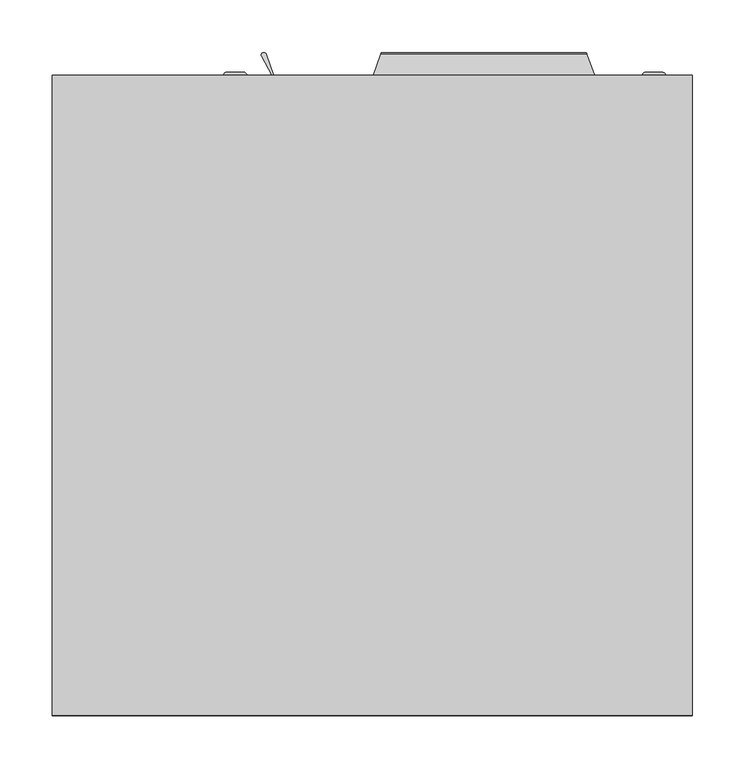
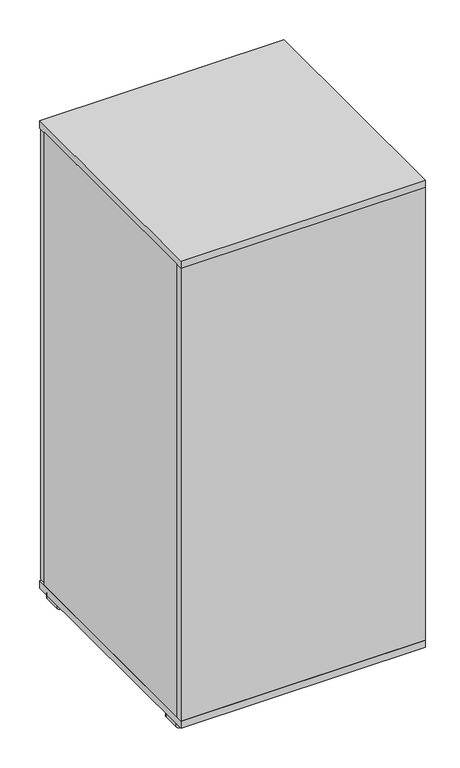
"""IFC4 building model written with IfcOpenShell, lengths in millimetres: furniture geometry, Haworth_BeHold_PersonalStorageTower_SideBookcase_24Wide : F/F - 24d 49h - Proud Back."""

from ifc_helpers import new_model, si_unit, point, frame, frame_2d, origin, origin_with_axes, place, context, project, spatial, polyline, circle_curve, ellipse_curve, trimmed, segment, composite_curve, outline, extrude, source, transform, mapped, element, save
from ifc_brep_helpers import plane_surface, cylinder_surface, revolved_surface, advanced_brep


def furniture_169a2497(model_context):
    return source(origin(), model_context, "Body", "SolidModel", [
        advanced_brep(
        [(-366.6155381, 673.1, 1072.35625), (-366.6155381, 673.1, 861.21875), (-365.2185303, 673.1, 861.21875), (-365.2185303, 673.1, 1072.35625), (-372.1358002, 693.3137158, 868.5759409), (-372.1358002, 693.3137158, 1064.9990591), (-376.758471, 691.2513306, 867.8252941), (-376.758471, 691.2513306, 1065.7497059)],
        [
            (0, 1),
            (1, 2),
            (2, 3),
            (3, 0),
            (2, 4),
            (4, 5),
            (5, 3),
            (4, 6, ellipse_curve(frame((-374.5401205, 692.4909412, 868.2764754), z_axis=(0.0, -0.3420201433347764, 0.9396926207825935), x_axis=(0.0, 0.9396926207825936, 0.34202014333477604)), 2.704292, 2.5412032)),
            (6, 7),
            (7, 5, ellipse_curve(frame((-374.5401205, 692.4909412, 1065.2985246), z_axis=(0.0, -0.34202014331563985, -0.9396926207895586), x_axis=(0.0, -0.9396926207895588, 0.3420201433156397)), 2.704292, 2.5412032)),
            (0, 7),
            (6, 1),
        ],
        [
            plane_surface(frame((-366.6155381, 673.1, 1072.35625), z_axis=(0.0, -1.0, 0.0), x_axis=(0.0, 0.0, -1.0))),
            plane_surface(frame((-365.2185303, 673.1, 1072.35625), z_axis=(0.946134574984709, 0.3237736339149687, 0.0), x_axis=(0.0, 0.0, -1.0))),
            cylinder_surface(frame((-374.5401205, 692.4909412, 1072.35625), z_axis=(0.0, 0.0, 1.0), x_axis=(0.0, 1.0, 0.0)), 2.5412032),
            plane_surface(frame((-376.758471, 691.2513306, 1072.35625), z_axis=(-0.8729528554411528, -0.4878045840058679, 0.0), x_axis=(0.0, 0.0, -1.0))),
            plane_surface(frame((-352.5185303, 673.1, 1072.35625), z_axis=(0.0, 0.34202014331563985, 0.9396926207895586), x_axis=(-1.0, 0.0, 0.0))),
            plane_surface(frame((-352.5185303, 699.5795, 870.8564998), z_axis=(0.0, 0.3420201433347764, -0.9396926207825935), x_axis=(-1.0, 0.0, 0.0))),
        ],
        [
            (0, [[1, 2, 3, 4]]),
            (1, [[-3, 5, 6, 7]]),
            (2, [[-6, 8, 9, 10]]),
            (3, [[-1, 11, -9, 12]]),
            (4, [[-4, -7, -10, -11]]),
            (5, [[-2, -12, -8, -5]]),
        ],
    ),
        advanced_brep(
        [(-393.9847546, 676.2753876, 1185.672), (-409.8583061, 676.2753876, 1185.672), (-401.9215303, 676.2753876, 1185.672), (-390.8082552, 673.1, 1185.672), (-413.0348055, 673.1, 1185.672), (-401.9215303, 673.1, 1185.672)],
        [
            (0, 1, circle_curve(frame((-401.9215303, 676.2753876, 1185.672), z_axis=(0.0, 1.0, 0.0), x_axis=(-1.0, 0.0, 0.0)), 7.9367757)),
            (1, 2),
            (2, 0),
            (1, 0, circle_curve(frame((-401.9215303, 676.2753876, 1185.672), z_axis=(0.0, 1.0, 0.0), x_axis=(-1.0, 0.0, 0.0)), 7.9367757)),
            (3, 4, circle_curve(frame((-401.9215303, 673.1, 1185.672), z_axis=(0.0, 1.0, 0.0), x_axis=(-1.0, 0.0, 0.0)), 11.1132751)),
            (4, 1, circle_curve(frame((-409.8583061, 673.098888, 1185.672), z_axis=(0.0, 0.0, -1.0), x_axis=(0.0, 1.0, 0.0)), 3.1764996)),
            (0, 3, circle_curve(frame((-393.9847546, 673.098888, 1185.672), z_axis=(0.0, 0.0, -1.0), x_axis=(0.0, 1.0, 0.0)), 3.1764996)),
            (4, 3, circle_curve(frame((-401.9215303, 673.1, 1185.672), z_axis=(0.0, 1.0, 0.0), x_axis=(-1.0, 0.0, 0.0)), 11.1132751)),
            (5, 4),
            (3, 5),
        ],
        [
            plane_surface(frame((-401.9215303, 676.2753876, 1185.672), z_axis=(0.0, 1.0, 0.0), x_axis=(-1.0, 0.0, 0.0))),
            revolved_surface(trimmed(ellipse_curve(frame((-409.8583061, 673.098888, 1185.672), z_axis=(0.0, 0.0, 1.0), x_axis=(0.0, 1.0, 0.0)), 3.1764996, 3.1764996), [point((-409.8583061, 676.2753876, 1185.672))], [point((-413.0348055, 673.1, 1185.672))], True, "CARTESIAN"), (-401.9215303, 635.0, 1185.672), (0.0, -1.0, 0.0)),
            plane_surface(frame((-401.9215303, 673.1, 1185.672), z_axis=(0.0, -1.0, 0.0), x_axis=(-1.0, 0.0, 0.0))),
        ],
        [
            (0, [[1, 2, 3]]),
            (0, [[4, -3, -2]]),
            (1, [[5, 6, -1, 7]]),
            (1, [[8, -7, -4, -6]]),
            (2, [[9, -5, 10]]),
            (2, [[-10, -8, -9]]),
        ],
    ),
        extrude(outline(polyline([(-574.3716553, 673.1), (-365.2185303, 673.1), (-365.2185303, 654.05), (-574.3716553, 654.05), (-574.3716553, 673.1)])), frame((0.0, 0.0, 34.925), z_axis=(0.0, 0.0, 1.0), x_axis=(1.0, 0.0, 0.0)), (0.0, 0.0, 1.0), 1187.45),
        advanced_brep(
        [(-270.5638428, 673.1, 706.6279922), (-263.9588955, 691.24585, 696.4887354), (-66.0312902, 691.24585, 696.4887354), (-59.4263428, 673.1, 706.6279922), (-59.4263428, 673.1, 708.025), (-270.5638428, 673.1, 708.025), (-66.7817097, 693.3074865, 701.1098982), (-263.2084759, 693.3074865, 701.1098982)],
        [
            (0, 1),
            (1, 2),
            (2, 3),
            (3, 0),
            (3, 4),
            (4, 5),
            (5, 0),
            (4, 6),
            (6, 7),
            (7, 5),
            (1, 7, ellipse_curve(frame((-263.5078582, 692.4849901, 698.7063783), z_axis=(0.9396859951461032, -0.3420383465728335, 0.0), x_axis=(0.34203834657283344, 0.9396859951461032, 0.0)), 2.7034093, 2.5403559)),
            (6, 2, ellipse_curve(frame((-66.4823275, 692.4849901, 698.7063783), z_axis=(-0.9396859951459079, -0.34203834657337, 0.0), x_axis=(0.3420383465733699, -0.939685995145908, 0.0)), 2.7034093, 2.5403559)),
        ],
        [
            plane_surface(frame((-59.4263428, 691.24585, 696.4887354), z_axis=(0.0, -0.4877820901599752, -0.8729654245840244), x_axis=(-1.0, 0.0, 0.0))),
            plane_surface(frame((-59.4263428, 673.1, 706.6279922), z_axis=(0.0, -1.0, 0.0), x_axis=(-1.0, 0.0, 0.0))),
            plane_surface(frame((-59.4263428, 673.1, 708.025), z_axis=(0.0, 0.32377211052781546, 0.9461350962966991), x_axis=(-1.0, 0.0, 0.0))),
            cylinder_surface(frame((-59.4263428, 692.4849901, 698.7063783), z_axis=(1.0, 0.0, 0.0), x_axis=(0.0, 1.0, 0.0)), 2.5403559),
            plane_surface(frame((-261.9925197, 696.6480975, 720.725), z_axis=(-0.9396859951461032, 0.3420383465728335, 0.0), x_axis=(0.0, 0.0, -1.0))),
            plane_surface(frame((-59.4263428, 673.1, 720.725), z_axis=(0.9396859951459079, 0.34203834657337, 0.0), x_axis=(0.0, 0.0, -1.0))),
        ],
        [
            (0, [[1, 2, 3, 4]]),
            (1, [[5, 6, 7, -4]]),
            (2, [[8, 9, 10, -6]]),
            (3, [[11, -9, 12, -2]]),
            (4, [[-7, -10, -11, -1]]),
            (5, [[-12, -8, -5, -3]]),
        ],
    ),
        advanced_brep(
        [(-10.8107056, 676.2742249, 665.95625), (-2.8716553, 676.2742249, 665.95625), (5.067395, 676.2742249, 665.95625), (-13.9849305, 673.1, 665.95625), (8.2416198, 673.1, 665.95625), (-2.8716553, 673.1, 665.95625)],
        [
            (0, 1),
            (1, 2),
            (2, 0, circle_curve(frame((-2.8716553, 676.2742249, 665.95625), z_axis=(0.0, 1.0, 0.0), x_axis=(1.0, 0.0, 0.0)), 7.9390503)),
            (0, 2, circle_curve(frame((-2.8716553, 676.2742249, 665.95625), z_axis=(0.0, 1.0, 0.0), x_axis=(1.0, 0.0, 0.0)), 7.9390503)),
            (3, 0, circle_curve(frame((-10.8107056, 673.1, 665.95625), z_axis=(0.0, 0.0, -1.0), x_axis=(1.0, 0.0, 0.0)), 3.1742249)),
            (2, 4, circle_curve(frame((5.067395, 673.1, 665.95625), z_axis=(0.0, 0.0, -1.0), x_axis=(-1.0, 0.0, 0.0)), 3.1742249)),
            (4, 3, circle_curve(frame((-2.8716553, 673.1, 665.95625), z_axis=(0.0, 1.0, 0.0), x_axis=(1.0, 0.0, 0.0)), 11.1132751)),
            (3, 4, circle_curve(frame((-2.8716553, 673.1, 665.95625), z_axis=(0.0, 1.0, 0.0), x_axis=(1.0, 0.0, 0.0)), 11.1132751)),
            (5, 3),
            (4, 5),
        ],
        [
            plane_surface(frame((-2.8716553, 676.2742249, 665.95625), z_axis=(0.0, 1.0, 0.0), x_axis=(1.0, 0.0, 0.0))),
            revolved_surface(trimmed(ellipse_curve(frame((5.067395, 673.1, 665.95625), z_axis=(0.0, 0.0, -1.0), x_axis=(-1.0, 0.0, 0.0)), 3.1742249, 3.1742249), [point((5.067395, 676.2742249, 665.95625))], [point((8.2416198, 673.1, 665.95625))], True, "CARTESIAN"), (-2.8716553, 659.1109205, 665.95625), (0.0, -1.0, 0.0)),
            plane_surface(frame((-2.8716553, 673.1, 665.95625), z_axis=(0.0, -1.0, 0.0), x_axis=(1.0, 0.0, 0.0))),
        ],
        [
            (0, [[1, 2, 3]]),
            (0, [[-2, -1, 4]]),
            (1, [[5, -3, 6, 7]]),
            (1, [[-6, -4, -5, 8]]),
            (2, [[9, -7, 10]]),
            (2, [[-10, -8, -9]]),
        ],
    ),
        extrude(outline(polyline([(-362.0435303, 654.05), (-362.0435303, 673.1), (32.0533447, 673.1), (32.0533447, 654.05), (-362.0435303, 654.05)])), frame((0.0, 0.0, 373.0625), z_axis=(0.0, 0.0, 1.0), x_axis=(1.0, 0.0, 0.0)), (0.0, 0.0, 1.0), 334.9625),
        advanced_brep(
        [(-270.5638428, 673.1, 368.4904922), (-263.9588955, 691.24585, 358.3512354), (-66.0312902, 691.24585, 358.3512354), (-59.4263428, 673.1, 368.4904922), (-59.4263428, 673.1, 369.8875), (-270.5638428, 673.1, 369.8875), (-66.7817097, 693.3074865, 362.9723982), (-263.2084759, 693.3074865, 362.9723982)],
        [
            (0, 1),
            (1, 2),
            (2, 3),
            (3, 0),
            (3, 4),
            (4, 5),
            (5, 0),
            (4, 6),
            (6, 7),
            (7, 5),
            (1, 7, ellipse_curve(frame((-263.5078582, 692.4849901, 360.5688783), z_axis=(0.9396859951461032, -0.3420383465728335, 0.0), x_axis=(0.34203834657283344, 0.9396859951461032, 0.0)), 2.7034093, 2.5403559)),
            (6, 2, ellipse_curve(frame((-66.4823275, 692.4849901, 360.5688783), z_axis=(-0.9396859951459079, -0.34203834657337, 0.0), x_axis=(0.3420383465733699, -0.939685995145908, 0.0)), 2.7034093, 2.5403559)),
        ],
        [
            plane_surface(frame((-59.4263428, 691.24585, 358.3512354), z_axis=(0.0, -0.4877820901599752, -0.8729654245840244), x_axis=(-1.0, 0.0, 0.0))),
            plane_surface(frame((-59.4263428, 673.1, 368.4904922), z_axis=(0.0, -1.0, 0.0), x_axis=(-1.0, 0.0, 0.0))),
            plane_surface(frame((-59.4263428, 673.1, 369.8875), z_axis=(0.0, 0.32377211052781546, 0.9461350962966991), x_axis=(-1.0, 0.0, 0.0))),
            cylinder_surface(frame((-59.4263428, 692.4849901, 360.5688783), z_axis=(1.0, 0.0, 0.0), x_axis=(0.0, 1.0, 0.0)), 2.5403559),
            plane_surface(frame((-261.9925197, 696.6480975, 382.5875), z_axis=(-0.9396859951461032, 0.3420383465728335, 0.0), x_axis=(0.0, 0.0, -1.0))),
            plane_surface(frame((-59.4263428, 673.1, 382.5875), z_axis=(0.9396859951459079, 0.34203834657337, 0.0), x_axis=(0.0, 0.0, -1.0))),
        ],
        [
            (0, [[1, 2, 3, 4]]),
            (1, [[5, 6, 7, -4]]),
            (2, [[8, 9, 10, -6]]),
            (3, [[11, -9, 12, -2]]),
            (4, [[-7, -10, -11, -1]]),
            (5, [[-12, -8, -5, -3]]),
        ],
    ),
        extrude(outline(polyline([(-362.0435303, 654.05), (-362.0435303, 673.1), (32.0533447, 673.1), (32.0533447, 654.05), (-362.0435303, 654.05)])), frame((0.0, 0.0, 34.925), z_axis=(0.0, 0.0, 1.0), x_axis=(1.0, 0.0, 0.0)), (0.0, 0.0, 1.0), 334.9625),
        extrude(outline(polyline([(-575.9591553, 654.05), (-556.9091553, 654.05), (-556.9091553, 82.55), (-575.9591553, 82.55), (-575.9591553, 654.05)])), frame((0.0, 0.0, 31.75), z_axis=(0.0, 0.0, 1.0), x_axis=(1.0, 0.0, 0.0)), (0.0, 0.0, 1.0), 1193.8),
        extrude(outline(polyline([(33.6408447, 654.05), (-363.6310303, 654.05), (-363.6310303, 673.1), (33.6408447, 673.1), (33.6408447, 654.05)])), frame((0.0, 0.0, 711.2), z_axis=(0.0, 0.0, 1.0), x_axis=(1.0, 0.0, 0.0)), (0.0, 0.0, 1.0), 514.35),
        extrude(outline(polyline([(14.5908447, 82.55), (-344.5810303, 82.55), (-344.5810303, 654.05), (14.5908447, 654.05), (14.5908447, 82.55)])), frame((0.0, 0.0, 990.6), z_axis=(0.0, 0.0, 1.0), x_axis=(1.0, 0.0, 0.0)), (0.0, 0.0, 1.0), 19.05),
        extrude(outline(polyline([(33.6408447, 82.55), (-344.5810303, 82.55), (-344.5810303, 654.05), (33.6408447, 654.05), (33.6408447, 82.55)])), frame((0.0, 0.0, 717.55), z_axis=(0.0, 0.0, 1.0), x_axis=(1.0, 0.0, 0.0)), (0.0, 0.0, 1.0), 19.05),
        extrude(outline(polyline([(33.6408447, 63.5), (-575.9591553, 63.5), (-575.9591553, 673.1), (33.6408447, 673.1), (33.6408447, 63.5)])), frame((0.0, 0.0, 1225.55), z_axis=(0.0, 0.0, 1.0), x_axis=(1.0, 0.0, 0.0)), (0.0, 0.0, 1.0), 19.05),
        extrude(outline(polyline([(33.6408447, 82.55), (33.6408447, 63.5), (-575.9591553, 63.5), (-575.9591553, 82.55), (33.6408447, 82.55)])), frame((0.0, 0.0, 31.75), z_axis=(0.0, 0.0, 1.0), x_axis=(1.0, 0.0, 0.0)), (0.0, 0.0, 1.0), 1193.8),
        extrude(outline(polyline([(33.6408447, 82.55), (14.5908447, 82.55), (14.5908447, 654.05), (33.6408447, 654.05), (33.6408447, 82.55)])), frame((0.0, 0.0, 31.75), z_axis=(0.0, 0.0, 1.0), x_axis=(1.0, 0.0, 0.0)), (0.0, 0.0, 1.0), 685.8),
        extrude(outline(polyline([(-363.6310303, 654.05), (-344.5810303, 654.05), (-344.5810303, 82.55), (-363.6310303, 82.55), (-363.6310303, 654.05)])), frame((0.0, 0.0, 31.75), z_axis=(0.0, 0.0, 1.0), x_axis=(1.0, 0.0, 0.0)), (0.0, 0.0, 1.0), 1193.8),
        extrude(outline(polyline([(33.6408447, 63.5), (-575.9591553, 63.5), (-575.9591553, 673.1), (33.6408447, 673.1), (33.6408447, 63.5)])), frame((0.0, 0.0, 12.7), z_axis=(0.0, 0.0, 1.0), x_axis=(1.0, 0.0, 0.0)), (0.0, 0.0, 1.0), 19.05),
        extrude(outline(composite_curve([segment(trimmed(circle_curve(frame_2d((8.2408447, 88.9)), 6.35), [point((14.5908447, 88.9))], [point((8.2408447, 82.55))], False, "CARTESIAN"), True, "CONTINUOUS"), segment(polyline([(8.2408447, 82.55), (-36.2591523, 82.55)]), True, "CONTINUOUS"), segment(trimmed(circle_curve(frame_2d((-36.2591523, 88.9)), 6.35), [point((-36.2591523, 82.55))], [point((-42.6091523, 88.9))], False, "CARTESIAN"), True, "CONTINUOUS"), segment(polyline([(-42.6091523, 88.9), (-42.6091523, 100.3500763), (-3.2092316, 139.7499969), (8.2408447, 139.7499969)]), True, "CONTINUOUS"), segment(trimmed(circle_curve(frame_2d((8.2408447, 133.3999969)), 6.35), [point((8.2408447, 139.7499969))], [point((14.5908447, 133.3999969))], False, "CARTESIAN"), True, "CONTINUOUS"), segment(polyline([(14.5908447, 133.3999969), (14.5908447, 88.9)]), True, "CONTINUOUS")], self_intersect=False)), origin_with_axes(), (0.0, 0.0, 1.0), 12.7),
        extrude(outline(composite_curve([segment(polyline([(14.5908447, 647.7), (14.5908447, 603.2000031)]), True, "CONTINUOUS"), segment(trimmed(circle_curve(frame_2d((8.2408447, 603.2000031)), 6.35), [point((14.5908447, 603.2000031))], [point((8.2408447, 596.8500031))], False, "CARTESIAN"), True, "CONTINUOUS"), segment(polyline([(8.2408447, 596.8500031), (-3.2092316, 596.8500031), (-42.6091523, 636.2499237), (-42.6091523, 647.7)]), True, "CONTINUOUS"), segment(trimmed(circle_curve(frame_2d((-36.2591523, 647.7)), 6.35), [point((-42.6091523, 647.7))], [point((-36.2591523, 654.05))], False, "CARTESIAN"), True, "CONTINUOUS"), segment(polyline([(-36.2591523, 654.05), (8.2408447, 654.05)]), True, "CONTINUOUS"), segment(trimmed(circle_curve(frame_2d((8.2408447, 647.7)), 6.35), [point((8.2408447, 654.05))], [point((14.5908447, 647.7))], False, "CARTESIAN"), True, "CONTINUOUS")], self_intersect=False)), origin_with_axes(), (0.0, 0.0, 1.0), 12.7),
        extrude(outline(composite_curve([segment(polyline([(-573.1810303, 88.9), (-573.1810303, 133.3999969)]), True, "CONTINUOUS"), segment(trimmed(circle_curve(frame_2d((-566.8310303, 133.3999969)), 6.35), [point((-573.1810303, 133.3999969))], [point((-566.8310303, 139.7499969))], False, "CARTESIAN"), True, "CONTINUOUS"), segment(polyline([(-566.8310303, 139.7499969), (-555.380954, 139.7499969), (-515.9810334, 100.3500763), (-515.9810334, 88.9)]), True, "CONTINUOUS"), segment(trimmed(circle_curve(frame_2d((-522.3310334, 88.9)), 6.35), [point((-515.9810334, 88.9))], [point((-522.3310334, 82.55))], False, "CARTESIAN"), True, "CONTINUOUS"), segment(polyline([(-522.3310334, 82.55), (-566.8310303, 82.55)]), True, "CONTINUOUS"), segment(trimmed(circle_curve(frame_2d((-566.8310303, 88.9)), 6.35), [point((-566.8310303, 82.55))], [point((-573.1810303, 88.9))], False, "CARTESIAN"), True, "CONTINUOUS")], self_intersect=False)), origin_with_axes(), (0.0, 0.0, 1.0), 12.7),
        extrude(outline(composite_curve([segment(trimmed(circle_curve(frame_2d((-566.8310303, 647.7)), 6.35), [point((-573.1810303, 647.7))], [point((-566.8310303, 654.05))], False, "CARTESIAN"), True, "CONTINUOUS"), segment(polyline([(-566.8310303, 654.05), (-522.3310334, 654.05)]), True, "CONTINUOUS"), segment(trimmed(circle_curve(frame_2d((-522.3310334, 647.7)), 6.35), [point((-522.3310334, 654.05))], [point((-515.9810334, 647.7))], False, "CARTESIAN"), True, "CONTINUOUS"), segment(polyline([(-515.9810334, 647.7), (-515.9810334, 636.2499237), (-555.380954, 596.8500031), (-566.8310303, 596.8500031)]), True, "CONTINUOUS"), segment(trimmed(circle_curve(frame_2d((-566.8310303, 603.2000031)), 6.35), [point((-566.8310303, 596.8500031))], [point((-573.1810303, 603.2000031))], False, "CARTESIAN"), True, "CONTINUOUS"), segment(polyline([(-573.1810303, 603.2000031), (-573.1810303, 647.7)]), True, "CONTINUOUS")], self_intersect=False)), origin_with_axes(), (0.0, 0.0, 1.0), 12.7),
    ])


if __name__ == "__main__":
    model = new_model("IFC4")
    model_context = context("Model", 3, world=origin())
    ifc_project = project(units=[si_unit("LENGTHUNIT", "METRE", prefix="MILLI")], contexts=[model_context])
    site = spatial("IfcSite", under=ifc_project)
    building = spatial("IfcBuilding", under=site)
    placement = place(None, origin())
    furniture_shape = furniture_169a2497(model_context)
    element("IfcFurniture", 1, ObjectType="Haworth_BeHold_PersonalStorageTower_SideBookcase_24Wide : F/F - 24d 49h - Proud Back", at=placement, inside=building, context=model_context, shape_type="MappedRepresentation", body=[
        mapped(furniture_shape, transform((0.0, 0.0, 0.0), x_axis=(1.0, 0.0, 0.0), y_axis=(0.0, 1.0, 0.0), z_axis=(0.0, 0.0, 1.0))),
    ])
    save(model, "model.ifc")
